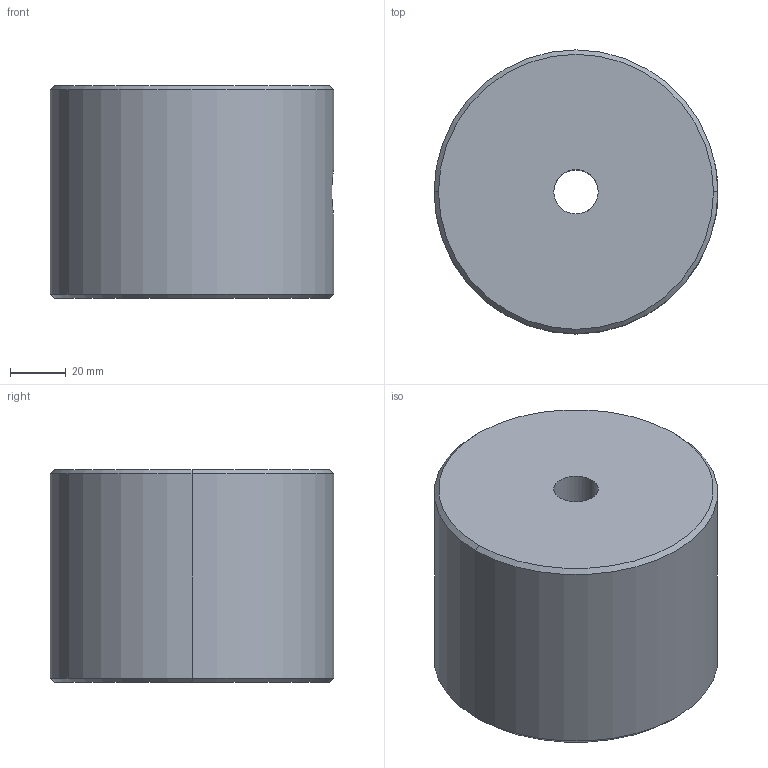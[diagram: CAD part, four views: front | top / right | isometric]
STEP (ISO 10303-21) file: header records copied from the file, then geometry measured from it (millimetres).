
FILE_DESCRIPTION (( 'STEP AP214' ), '1' );
FILE_NAME ('OZHB100.STEP', '2023-03-27T18:52:32', ( '' ), ( '' ), 'SwSTEP 2.0', 'SolidWorks 2021', '' );
FILE_SCHEMA (( 'AUTOMOTIVE_DESIGN' ));
Length unit declared in the file: inch
Products named in the file (1): OZHB100
Bounding box: 101.6 x 101.6 x 76.2 mm (x, y, z)
Volume: 593480 mm3; surface area: 45140.9 mm2
Topology: 1 solids, 1 shells, 17 faces, 38 edges, 22 vertices
Faces by surface type: cylinder 8, cone 6, plane 3
Entity records: 718 total; most frequent: CARTESIAN_POINT 260, DIRECTION 88, ORIENTED_EDGE 76, EDGE_CURVE 38, AXIS2_PLACEMENT_3D 36, VERTEX_POINT 22, EDGE_LOOP 20, CIRCLE 18
